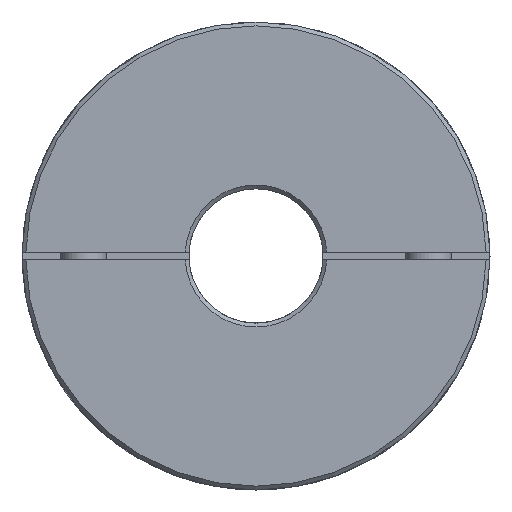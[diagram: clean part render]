
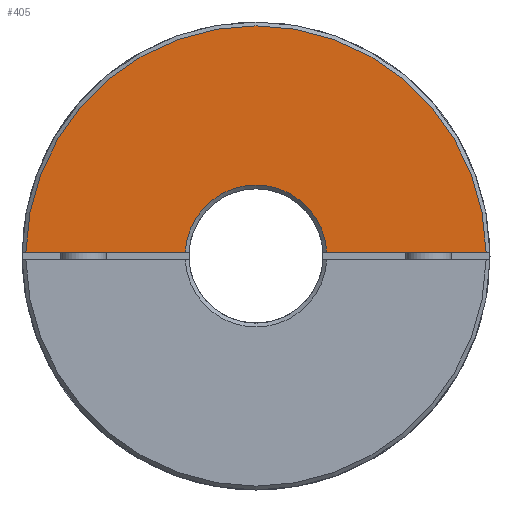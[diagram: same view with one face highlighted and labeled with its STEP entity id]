
A CAD part, left-side view. The second image highlights one B-rep face of the part: STEP entity #405.
In plain terms, the highlighted planar face has unit normal (-1, 0, 0) as drawn and (1, 0, 0) by its records, which use the part's own axes.
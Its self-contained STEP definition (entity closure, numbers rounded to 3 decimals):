
#405 = ADVANCED_FACE( '', ( #810 ), #811, .T. );
#810 = FACE_OUTER_BOUND( '', #1209, .T. );
#811 = PLANE( '', #1210 );
#1209 = EDGE_LOOP( '', ( #1848, #1849, #1850, #1851 ) );
#1210 = AXIS2_PLACEMENT_3D( '', #1852, #1853, #1854 );
#1848 = ORIENTED_EDGE( '', *, *, #2150, .F. );
#1849 = ORIENTED_EDGE( '', *, *, #2102, .T. );
#1850 = ORIENTED_EDGE( '', *, *, #2193, .F. );
#1851 = ORIENTED_EDGE( '', *, *, #2114, .T. );
#1852 = CARTESIAN_POINT( '', ( 36., 0., 61. ) );
#1853 = DIRECTION( '', ( 1., 0., 0. ) );
#1854 = DIRECTION( '', ( 0., 0., -1. ) );
#2102 = EDGE_CURVE( '', #2422, #2419, #2423, .T. );
#2114 = EDGE_CURVE( '', #2437, #2441, #2443, .F. );
#2150 = EDGE_CURVE( '', #2422, #2441, #2489, .T. );
#2193 = EDGE_CURVE( '', #2437, #2419, #2543, .T. );
#2419 = VERTEX_POINT( '', #2904 );
#2422 = VERTEX_POINT( '', #2910 );
#2423 = CIRCLE( '', #2911, 60. );
#2437 = VERTEX_POINT( '', #2928 );
#2441 = VERTEX_POINT( '', #2935 );
#2443 = CIRCLE( '', #2940, 18.5 );
#2489 = LINE( '', #3172, #3173 );
#2543 = LINE( '', #3308, #3309 );
#2904 = CARTESIAN_POINT( '', ( 36., -59.992, 1. ) );
#2910 = CARTESIAN_POINT( '', ( 36., 59.992, 1. ) );
#2911 = AXIS2_PLACEMENT_3D( '', #3521, #3522, #3523 );
#2928 = CARTESIAN_POINT( '', ( 36., -18.473, 1. ) );
#2935 = CARTESIAN_POINT( '', ( 36., 18.473, 1. ) );
#2940 = AXIS2_PLACEMENT_3D( '', #3539, #3540, #3541 );
#3172 = CARTESIAN_POINT( '', ( 36., 0., 1. ) );
#3173 = VECTOR( '', #3581, 1000. );
#3308 = CARTESIAN_POINT( '', ( 36., 0., 1. ) );
#3309 = VECTOR( '', #3623, 1000. );
#3521 = CARTESIAN_POINT( '', ( 36., 0., 0. ) );
#3522 = DIRECTION( '', ( 1., 0., 0. ) );
#3523 = DIRECTION( '', ( 0., 0., -1. ) );
#3539 = CARTESIAN_POINT( '', ( 36., 0., 0. ) );
#3540 = DIRECTION( '', ( 1., 0., 0. ) );
#3541 = DIRECTION( '', ( 0., 0., -1. ) );
#3581 = DIRECTION( '', ( 0., -1., 0. ) );
#3623 = DIRECTION( '', ( 0., -1., 0. ) );
